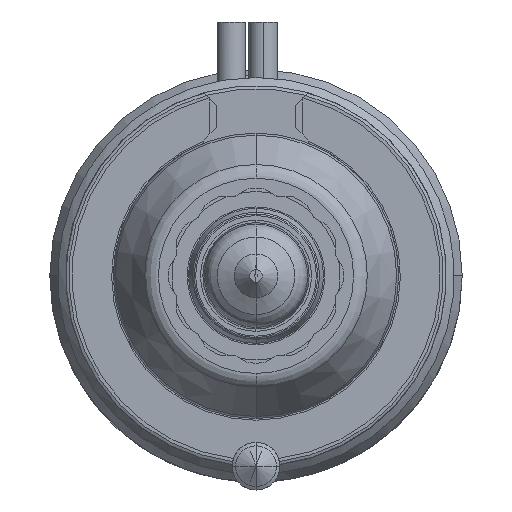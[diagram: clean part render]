
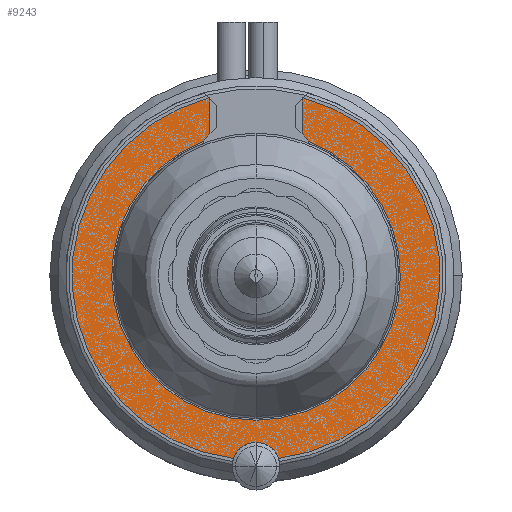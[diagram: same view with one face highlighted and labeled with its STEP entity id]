
A CAD part, front view. The second image highlights one B-rep face of the part: STEP entity #9243.
In plain terms, the highlighted planar face has unit normal (0, -1, 0).
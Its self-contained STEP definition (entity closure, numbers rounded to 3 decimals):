
#596=DIRECTION('',(0.707,0.,-0.707));
#597=VECTOR('',#596,0.092);
#598=CARTESIAN_POINT('',(-2.965,-22.,11.215));
#599=LINE('',#598,#597);
#1555=CARTESIAN_POINT('',(0.,-22.,6.2));
#1556=DIRECTION('',(0.,1.,0.));
#1557=DIRECTION('',(0.725,0.,0.689));
#1558=AXIS2_PLACEMENT_3D('',#1555,#1556,#1557);
#1570=CARTESIAN_POINT('',(0.,-22.,-12.));
#1571=DIRECTION('',(0.,1.,0.));
#1572=DIRECTION('',(-0.946,0.,0.325));
#1573=AXIS2_PLACEMENT_3D('',#1570,#1571,#1572);
#1589=CARTESIAN_POINT('',(0.,-22.,0.));
#1590=DIRECTION('',(0.,1.,0.));
#1591=DIRECTION('',(-0.122,0.,-0.992));
#1592=AXIS2_PLACEMENT_3D('',#1589,#1590,#1591);
#1601=CARTESIAN_POINT('',(0.,-22.,0.));
#1602=DIRECTION('',(0.,1.,0.));
#1603=DIRECTION('',(0.256,0.,0.967));
#1604=AXIS2_PLACEMENT_3D('',#1601,#1602,#1603);
#1617=DIRECTION('',(-0.707,0.,-0.707));
#1618=VECTOR('',#1617,0.092);
#1619=CARTESIAN_POINT('',(2.965,-22.,11.215));
#1620=LINE('',#1619,#1618);
#1625=DIRECTION('',(0.,0.,-1.));
#1626=VECTOR('',#1625,2.195);
#1627=CARTESIAN_POINT('',(2.9,-22.,11.15));
#1628=LINE('',#1627,#1626);
#1656=DIRECTION('',(0.,0.,1.));
#1657=VECTOR('',#1656,2.195);
#1658=CARTESIAN_POINT('',(-2.9,-22.,8.955));
#1659=LINE('',#1658,#1657);
#1691=CARTESIAN_POINT('',(0.,-22.,6.2));
#1692=DIRECTION('',(0.,1.,0.));
#1693=DIRECTION('',(-0.82,0.,0.572));
#1694=AXIS2_PLACEMENT_3D('',#1691,#1692,#1693);
#1706=CARTESIAN_POINT('',(0.,-22.,0.));
#1707=DIRECTION('',(0.,-1.,0.));
#1708=DIRECTION('',(-0.361,0.,0.933));
#1709=AXIS2_PLACEMENT_3D('',#1706,#1707,#1708);
#7432=CARTESIAN_POINT('',(2.965,-22.,11.215));
#7433=CARTESIAN_POINT('',(2.9,-22.,11.15));
#7434=VERTEX_POINT('',#7432);
#7435=VERTEX_POINT('',#7433);
#7440=CARTESIAN_POINT('',(-2.965,-22.,11.215));
#7441=CARTESIAN_POINT('',(-2.9,-22.,11.15));
#7442=VERTEX_POINT('',#7440);
#7443=VERTEX_POINT('',#7441);
#7478=CARTESIAN_POINT('',(2.9,-22.,8.955));
#7479=CARTESIAN_POINT('',(3.281,-22.,8.488));
#7480=VERTEX_POINT('',#7478);
#7481=VERTEX_POINT('',#7479);
#7482=CARTESIAN_POINT('',(-3.281,-22.,8.488));
#7483=CARTESIAN_POINT('',(-2.9,-22.,8.955));
#7484=VERTEX_POINT('',#7482);
#7485=VERTEX_POINT('',#7483);
#7627=CARTESIAN_POINT('',(-1.419,-22.,-11.513));
#7628=CARTESIAN_POINT('',(1.419,-22.,-11.513));
#7629=VERTEX_POINT('',#7627);
#7630=VERTEX_POINT('',#7628);
#9219=CARTESIAN_POINT('',(0.,-22.,0.));
#9220=DIRECTION('',(0.,-1.,0.));
#9221=DIRECTION('',(-1.,0.,0.));
#9222=AXIS2_PLACEMENT_3D('',#9219,#9220,#9221);
#9223=PLANE('',#9222);
#9224=ORIENTED_EDGE('',*,*,#8706,.F.);
#9226=ORIENTED_EDGE('',*,*,#9225,.T.);
#9227=ORIENTED_EDGE('',*,*,#8826,.T.);
#9229=ORIENTED_EDGE('',*,*,#9228,.F.);
#9231=ORIENTED_EDGE('',*,*,#9230,.F.);
#9233=ORIENTED_EDGE('',*,*,#9232,.T.);
#9234=ORIENTED_EDGE('',*,*,#9198,.F.);
#9236=ORIENTED_EDGE('',*,*,#9235,.F.);
#9238=ORIENTED_EDGE('',*,*,#9237,.F.);
#9240=ORIENTED_EDGE('',*,*,#9239,.T.);
#9241=EDGE_LOOP('',(#9224,#9226,#9227,#9229,#9231,#9233,#9234,#9236,#9238,
#9240));
#9242=FACE_OUTER_BOUND('',#9241,.F.);
#9243=ADVANCED_FACE('',(#9242),#9223,.T.);
#1559=CIRCLE('',#1558,4.);
#1574=CIRCLE('',#1573,1.5);
#1593=CIRCLE('',#1592,11.6);
#1605=CIRCLE('',#1604,11.6);
#1695=CIRCLE('',#1694,4.);
#1710=CIRCLE('',#1709,9.1);
#8706=EDGE_CURVE('',#7629,#7630,#1574,.T.);
#8826=EDGE_CURVE('',#7442,#7443,#599,.T.);
#9198=EDGE_CURVE('',#7480,#7481,#1559,.T.);
#9225=EDGE_CURVE('',#7629,#7442,#1593,.T.);
#9228=EDGE_CURVE('',#7485,#7443,#1659,.T.);
#9230=EDGE_CURVE('',#7484,#7485,#1695,.T.);
#9232=EDGE_CURVE('',#7484,#7481,#1710,.T.);
#9235=EDGE_CURVE('',#7435,#7480,#1628,.T.);
#9237=EDGE_CURVE('',#7434,#7435,#1620,.T.);
#9239=EDGE_CURVE('',#7434,#7630,#1605,.T.);
